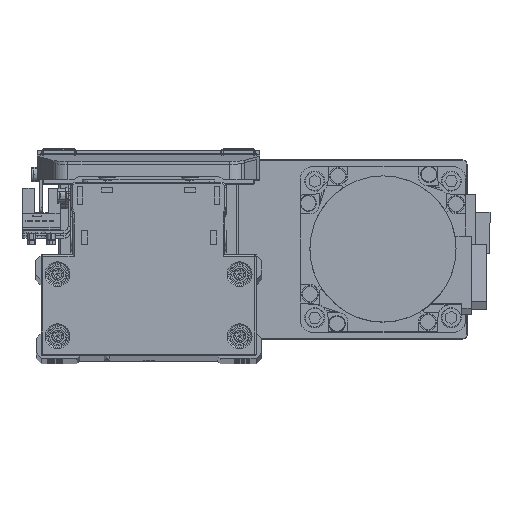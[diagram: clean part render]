
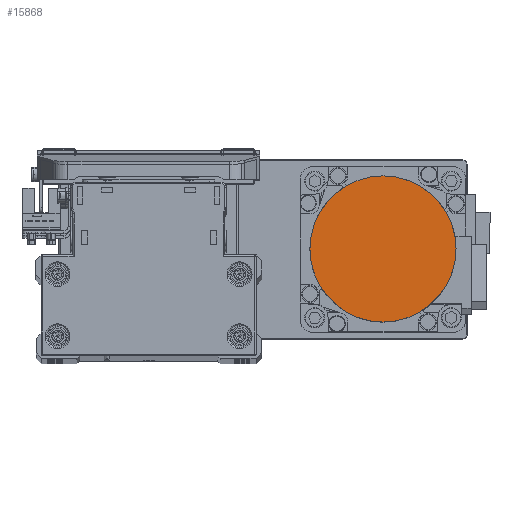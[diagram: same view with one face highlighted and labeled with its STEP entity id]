
A CAD part, top view. The second image highlights one B-rep face of the part: STEP entity #15868.
In plain terms, the highlighted planar face has unit normal (0, 0, 1) as drawn and (0, 0, -1) by its records, which use the part's own axes.
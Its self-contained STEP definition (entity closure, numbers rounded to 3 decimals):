
#3565 = EDGE_CURVE ( 'NONE', #11640, #34156, #16277, .T. ) ;
#4948 = CARTESIAN_POINT ( 'NONE',  ( -26.5, 0., -109.7 ) ) ;
#5852 = DIRECTION ( 'NONE',  ( 0., 0., 1. ) ) ;
#6857 = EDGE_CURVE ( 'NONE', #34156, #11640, #14064, .T. ) ;
#7099 = ORIENTED_EDGE ( 'NONE', *, *, #6857, .F. ) ;
#8665 = CARTESIAN_POINT ( 'NONE',  ( 26.5, 0., -109.7 ) ) ;
#10610 = DIRECTION ( 'NONE',  ( -1., 0., 0. ) ) ;
#10806 = CARTESIAN_POINT ( 'NONE',  ( 0., 0., -109.7 ) ) ;
#11074 = AXIS2_PLACEMENT_3D ( 'NONE', #10806, #23634, #36461 ) ;
#11640 = VERTEX_POINT ( 'NONE', #4948 ) ;
#14064 = CIRCLE ( 'NONE', #37583, 26.5 ) ;
#15868 = ADVANCED_FACE ( 'NONE', ( #26791 ), #39623, .F. ) ;
#16277 = CIRCLE ( 'NONE', #39777, 26.5 ) ;
#18702 = DIRECTION ( 'NONE',  ( 1., 0., 0. ) ) ;
#19542 = EDGE_LOOP ( 'NONE', ( #35814, #7099 ) ) ;
#23634 = DIRECTION ( 'NONE',  ( 0., 0., 1. ) ) ;
#26599 = CARTESIAN_POINT ( 'NONE',  ( 0., 0., -109.7 ) ) ;
#26791 = FACE_OUTER_BOUND ( 'NONE', #19542, .T. ) ;
#34156 = VERTEX_POINT ( 'NONE', #8665 ) ;
#34675 = CARTESIAN_POINT ( 'NONE',  ( 0., 0., -109.7 ) ) ;
#35814 = ORIENTED_EDGE ( 'NONE', *, *, #3565, .F. ) ;
#36461 = DIRECTION ( 'NONE',  ( 1., 0., 0. ) ) ;
#37583 = AXIS2_PLACEMENT_3D ( 'NONE', #34675, #5852, #18702 ) ;
#39421 = DIRECTION ( 'NONE',  ( 0., 0., 1. ) ) ;
#39623 = PLANE ( 'NONE',  #11074 ) ;
#39777 = AXIS2_PLACEMENT_3D ( 'NONE', #26599, #39421, #10610 ) ;
